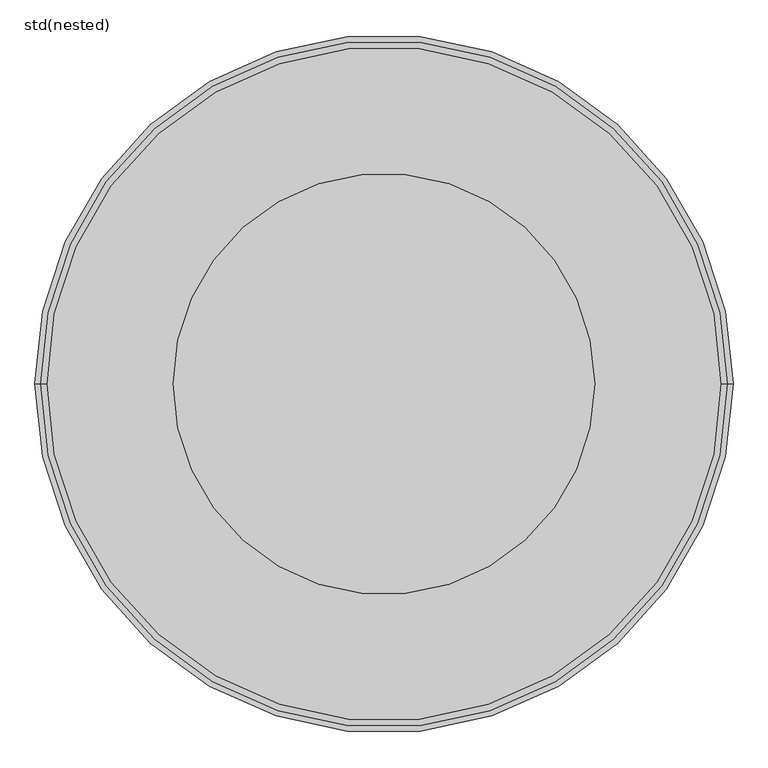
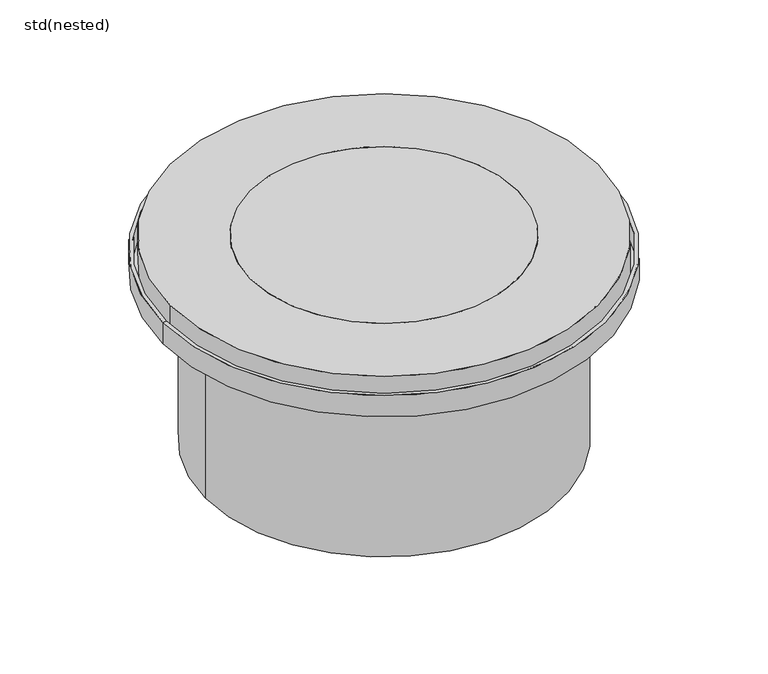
"""IFC4 building model written with IfcOpenShell, lengths in millimetres: unitary equipment geometry, ZZZ_do not use_ME_ST_WPB_top sections_plastic_ACO : std(nested)."""

from ifc_helpers import new_model, si_unit, point, frame, origin, origin_2d, place, context, project, spatial, polyline, circle_curve, trimmed, segment, composite_curve, outline, extrude, source, transform, mapped, element, save
from ifc_brep_helpers import plane_surface, cylinder_surface, revolved_surface, advanced_brep


def std_nested_026c7c33(model_context):
    return source(origin(), model_context, "Body", "SolidModel", [
        advanced_brep(
        [(-510.0, 0.0, -35.0), (510.0, 0.0, -35.0), (518.0, 0.0, -35.0), (-518.0, 0.0, -35.0), (-510.0, 0.0, -80.0), (510.0, 0.0, -80.0), (-410.0, 0.0, -80.0), (410.0, 0.0, -80.0), (-410.0, 0.0, -505.0), (410.0, 0.0, -505.0), (-418.0, 0.0, -505.0), (418.0, 0.0, -505.0), (-418.0, 0.0, -88.0), (418.0, 0.0, -88.0), (-518.0, 0.0, -88.0), (518.0, 0.0, -88.0)],
        [
            (0, 1, circle_curve(frame((0.0, 0.0, -35.0), z_axis=(0.0, 0.0, -1.0), x_axis=(1.0, 0.0, 0.0)), 510.0)),
            (1, 2),
            (2, 3, circle_curve(frame((0.0, 0.0, -35.0), z_axis=(0.0, 0.0, 1.0), x_axis=(1.0, 0.0, 0.0)), 518.0)),
            (3, 0),
            (1, 0, circle_curve(frame((0.0, 0.0, -35.0), z_axis=(0.0, 0.0, -1.0), x_axis=(1.0, 0.0, 0.0)), 510.0)),
            (3, 2, circle_curve(frame((0.0, 0.0, -35.0), z_axis=(0.0, 0.0, 1.0), x_axis=(1.0, 0.0, 0.0)), 518.0)),
            (4, 5, circle_curve(frame((0.0, 0.0, -80.0), z_axis=(0.0, 0.0, -1.0), x_axis=(1.0, 0.0, 0.0)), 510.0)),
            (5, 1),
            (0, 4),
            (5, 4, circle_curve(frame((0.0, 0.0, -80.0), z_axis=(0.0, 0.0, -1.0), x_axis=(1.0, 0.0, 0.0)), 510.0)),
            (6, 7, circle_curve(frame((0.0, 0.0, -80.0), z_axis=(0.0, 0.0, -1.0), x_axis=(1.0, 0.0, 0.0)), 410.0)),
            (7, 5),
            (4, 6),
            (7, 6, circle_curve(frame((0.0, 0.0, -80.0), z_axis=(0.0, 0.0, -1.0), x_axis=(1.0, 0.0, 0.0)), 410.0)),
            (8, 9, circle_curve(frame((0.0, 0.0, -505.0), z_axis=(0.0, 0.0, -1.0), x_axis=(1.0, 0.0, 0.0)), 410.0)),
            (9, 7),
            (6, 8),
            (9, 8, circle_curve(frame((0.0, 0.0, -505.0), z_axis=(0.0, 0.0, -1.0), x_axis=(1.0, 0.0, 0.0)), 410.0)),
            (10, 11, circle_curve(frame((0.0, 0.0, -505.0), z_axis=(0.0, 0.0, -1.0), x_axis=(1.0, 0.0, 0.0)), 418.0)),
            (11, 9),
            (8, 10),
            (11, 10, circle_curve(frame((0.0, 0.0, -505.0), z_axis=(0.0, 0.0, -1.0), x_axis=(1.0, 0.0, 0.0)), 418.0)),
            (12, 13, circle_curve(frame((0.0, 0.0, -88.0), z_axis=(0.0, 0.0, -1.0), x_axis=(1.0, 0.0, 0.0)), 418.0)),
            (13, 11),
            (10, 12),
            (13, 12, circle_curve(frame((0.0, 0.0, -88.0), z_axis=(0.0, 0.0, -1.0), x_axis=(1.0, 0.0, 0.0)), 418.0)),
            (14, 15, circle_curve(frame((0.0, 0.0, -88.0), z_axis=(0.0, 0.0, -1.0), x_axis=(1.0, 0.0, 0.0)), 518.0)),
            (15, 13),
            (12, 14),
            (15, 14, circle_curve(frame((0.0, 0.0, -88.0), z_axis=(0.0, 0.0, -1.0), x_axis=(1.0, 0.0, 0.0)), 518.0)),
            (2, 15),
            (14, 3),
        ],
        [
            plane_surface(frame((0.0, 0.0, -35.0), z_axis=(0.0, 0.0, 1.0), x_axis=(1.0, 0.0, 0.0))),
            revolved_surface(polyline([(510.0, 0.0, -35.0), (510.0, 0.0, -80.0)]), (0.0, 0.0, 240.0), (0.0, 0.0, 1.0)),
            plane_surface(frame((0.0, 0.0, -80.0), z_axis=(0.0, 0.0, 1.0), x_axis=(1.0, 0.0, 0.0))),
            revolved_surface(polyline([(410.0, 0.0, -80.0), (410.0, 0.0, -505.0)]), (0.0, 0.0, 240.0), (0.0, 0.0, 1.0)),
            plane_surface(frame((0.0, 0.0, -505.0), z_axis=(0.0, 0.0, -1.0), x_axis=(1.0, 0.0, 0.0))),
            cylinder_surface(frame((0.0, 0.0, 240.0), z_axis=(0.0, 0.0, 1.0), x_axis=(1.0, 0.0, 0.0)), 418.0),
            plane_surface(frame((0.0, 0.0, -88.0), z_axis=(0.0, 0.0, -1.0), x_axis=(1.0, 0.0, 0.0))),
            cylinder_surface(frame((0.0, 0.0, 240.0), z_axis=(0.0, 0.0, 1.0), x_axis=(1.0, 0.0, 0.0)), 518.0),
        ],
        [
            (0, [[1, 2, 3, 4]]),
            (0, [[5, -4, 6, -2]]),
            (1, [[7, 8, -1, 9]]),
            (1, [[10, -9, -5, -8]]),
            (2, [[11, 12, -7, 13]]),
            (2, [[14, -13, -10, -12]]),
            (3, [[15, 16, -11, 17]]),
            (3, [[18, -17, -14, -16]]),
            (4, [[19, 20, -15, 21]]),
            (4, [[22, -21, -18, -20]]),
            (5, [[23, 24, -19, 25]]),
            (5, [[26, -25, -22, -24]]),
            (6, [[27, 28, -23, 29]]),
            (6, [[30, -29, -26, -28]]),
            (7, [[-3, 31, -27, 32]]),
            (7, [[-6, -32, -30, -31]]),
        ],
    ),
        extrude(outline(composite_curve([segment(trimmed(circle_curve(origin_2d(), 312.5), [point((312.5, 0.0))], [point((-312.5, 0.0))], False, "CARTESIAN"), True, "CONTINUOUS"), segment(trimmed(circle_curve(origin_2d(), 312.5), [point((-312.5, 0.0))], [point((312.5, 0.0))], False, "CARTESIAN"), True, "CONTINUOUS")], self_intersect=False)), frame((0.0, 0.0, -60.0), z_axis=(0.0, 0.0, 1.0), x_axis=(1.0, 0.0, 0.0)), (0.0, 0.0, 1.0), 60.0),
        extrude(outline(composite_curve([segment(trimmed(circle_curve(origin_2d(), 500.0), [point((-500.0, 0.0))], [point((500.0, 0.0))], False, "CARTESIAN"), True, "CONTINUOUS"), segment(trimmed(circle_curve(origin_2d(), 500.0), [point((500.0, 0.0))], [point((-500.0, 0.0))], False, "CARTESIAN"), True, "CONTINUOUS")], self_intersect=False), holes=[composite_curve([segment(trimmed(circle_curve(origin_2d(), 312.5), [point((-312.5, 0.0))], [point((312.5, 0.0))], True, "CARTESIAN"), True, "CONTINUOUS"), segment(trimmed(circle_curve(origin_2d(), 312.5), [point((312.5, 0.0))], [point((-312.5, 0.0))], True, "CARTESIAN"), True, "CONTINUOUS")], self_intersect=False)]), frame((0.0, 0.0, -80.0), z_axis=(0.0, 0.0, 1.0), x_axis=(1.0, 0.0, 0.0)), (0.0, 0.0, 1.0), 80.0),
    ])


if __name__ == "__main__":
    model = new_model("IFC4")
    model_context = context("Model", 3, world=origin())
    ifc_project = project(units=[si_unit("LENGTHUNIT", "METRE", prefix="MILLI")], contexts=[model_context])
    site = spatial("IfcSite", under=ifc_project)
    building = spatial("IfcBuilding", under=site)
    placement = place(None, origin())
    std_nested_shape = std_nested_026c7c33(model_context)
    element("IfcUnitaryEquipment", 1, ObjectType="ZZZ_do not use_ME_ST_WPB_top sections_plastic_ACO : std(nested)", at=placement, inside=building, context=model_context, shape_type="MappedRepresentation", body=[
        mapped(std_nested_shape, transform((0.0, 0.0, 0.0), x_axis=(1.0, 0.0, 0.0), y_axis=(0.0, 1.0, 0.0), z_axis=(0.0, 0.0, 1.0))),
    ])
    save(model, "model.ifc")
